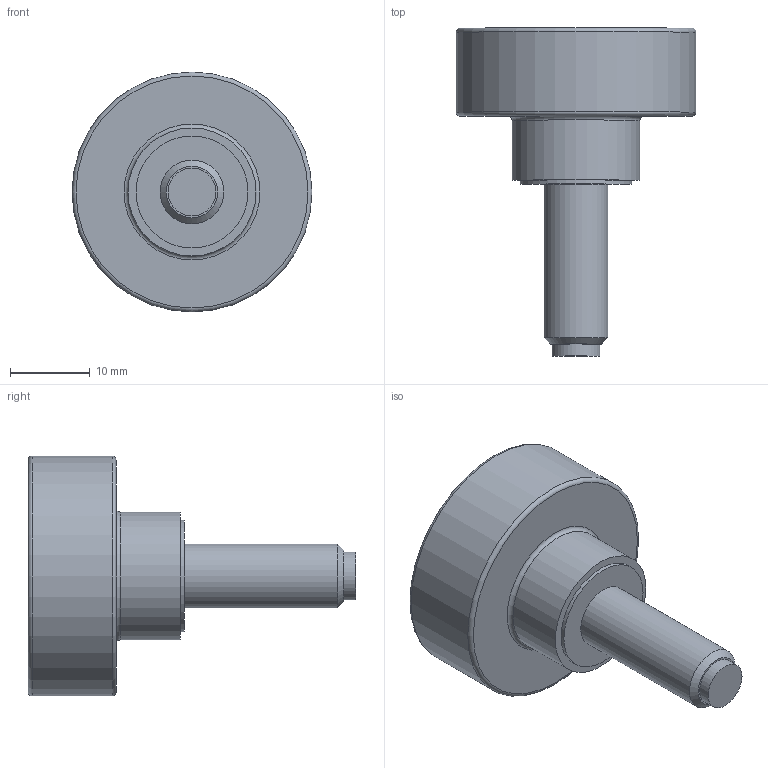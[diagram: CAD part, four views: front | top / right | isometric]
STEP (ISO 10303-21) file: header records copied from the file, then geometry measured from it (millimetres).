
FILE_DESCRIPTION( ( 'STEP AP203' ), '1' );
FILE_NAME( 'C:/Temp/Ganter_Step_05_03_2020/data/2_2/gn_421_10/Hollow knurled knob, with tip GN 421.10-M8-20-MS.stp', '2020-03-05T12:25:34', ( 'License CC BY-ND 4.0' ), ( 'CADENAS' ), ' ', 'PARTsolutions', ' ' );
FILE_SCHEMA( ( 'CONFIG_CONTROL_DESIGN' ) );
Length unit declared in the file: millimetre
Products named in the file (1): _Hollow knurled knob, with tip GN 421.10-M8-20-MS
Bounding box: 30 x 41 x 30 mm (x, y, z)
Volume: 6808.4 mm3; surface area: 4010.2 mm2
Topology: 1 solids, 1 shells, 19 faces, 30 edges, 19 vertices
Faces by surface type: plane 8, cylinder 7, torus 3, cone 1
Full cylindrical faces by diameter (mm): 6 x1, 8 x1, 12 x1, 14 x1, 16 x1, 26 x1, 30 x1
Entity records: 418 total; most frequent: DIRECTION 76, CARTESIAN_POINT 56, AXIS2_PLACEMENT_3D 38, EDGE_LOOP 36, ORIENTED_EDGE 36, FACE_OUTER_BOUND 29, ADVANCED_FACE 19, EDGE_CURVE 18
